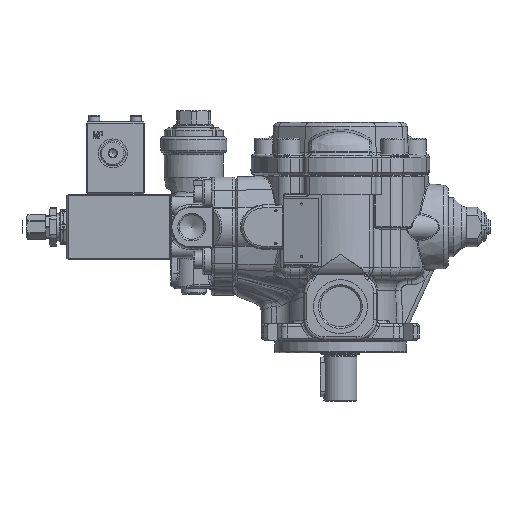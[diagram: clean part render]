
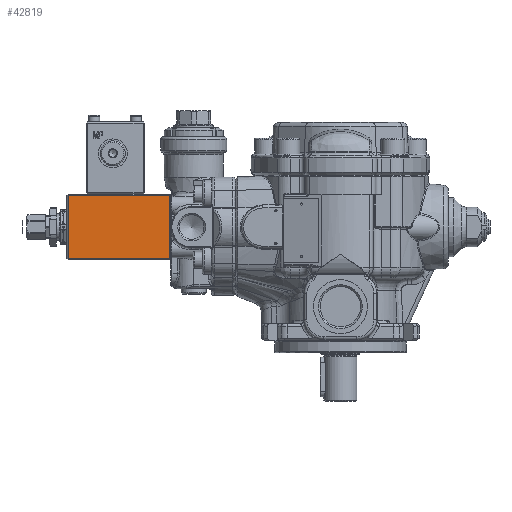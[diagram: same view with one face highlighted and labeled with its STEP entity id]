
A CAD part, left-side view. The second image highlights one B-rep face of the part: STEP entity #42819.
In plain terms, the highlighted planar face has unit normal (-1, 0, 0).
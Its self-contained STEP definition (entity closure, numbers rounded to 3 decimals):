
#1836=PLANE('',#46692);
#3743=LINE('',#84148,#6189);
#3744=LINE('',#84150,#6190);
#3745=LINE('',#84152,#6191);
#3746=LINE('',#84153,#6192);
#6189=VECTOR('',#55794,10.);
#6190=VECTOR('',#55795,10.);
#6191=VECTOR('',#55796,10.);
#6192=VECTOR('',#55797,10.);
#9512=FACE_OUTER_BOUND('',#12003,.T.);
#12003=EDGE_LOOP('',(#35142,#35143,#35144,#35145));
#18782=VERTEX_POINT('',#84146);
#18783=VERTEX_POINT('',#84147);
#18784=VERTEX_POINT('',#84149);
#18785=VERTEX_POINT('',#84151);
#24413=EDGE_CURVE('',#18782,#18783,#3743,.T.);
#24414=EDGE_CURVE('',#18784,#18782,#3744,.T.);
#24415=EDGE_CURVE('',#18785,#18784,#3745,.T.);
#24416=EDGE_CURVE('',#18783,#18785,#3746,.T.);
#35142=ORIENTED_EDGE('',*,*,#24413,.F.);
#35143=ORIENTED_EDGE('',*,*,#24414,.F.);
#35144=ORIENTED_EDGE('',*,*,#24415,.F.);
#35145=ORIENTED_EDGE('',*,*,#24416,.F.);
#42819=ADVANCED_FACE('',(#9512),#1836,.T.);
#46692=AXIS2_PLACEMENT_3D('',#84145,#55792,#55793);
#55792=DIRECTION('center_axis',(-1.,0.,0.));
#55793=DIRECTION('ref_axis',(0.,0.,
1.));
#55794=DIRECTION('',(0.,0.,-1.));
#55795=DIRECTION('',(0.,-1.,0.));
#55796=DIRECTION('',(0.,0.,1.));
#55797=DIRECTION('',(0.,1.,0.));
#84145=CARTESIAN_POINT('Origin',(96.047,119.193,27.283));
#84146=CARTESIAN_POINT('',(96.047,120.193,76.283));
#84147=CARTESIAN_POINT('',(96.047,120.193,28.283));
#84148=CARTESIAN_POINT('',(96.047,120.193,39.783));
#84149=CARTESIAN_POINT('',(96.047,197.193,76.283));
#84150=CARTESIAN_POINT('',(96.047,119.193,76.283));
#84151=CARTESIAN_POINT('',(96.047,197.193,28.283));
#84152=CARTESIAN_POINT('',(96.047,197.193,39.783));
#84153=CARTESIAN_POINT('',(96.047,119.193,28.283));
